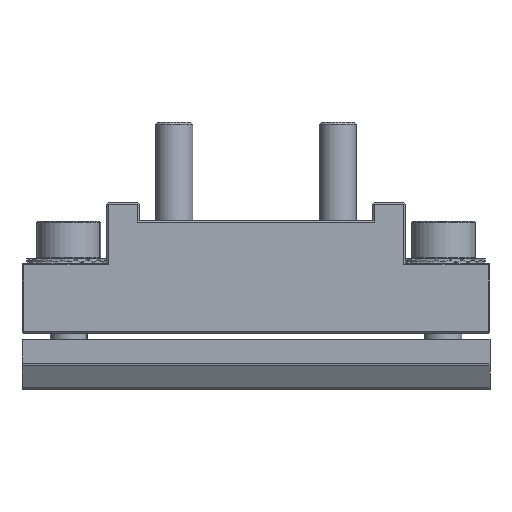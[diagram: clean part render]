
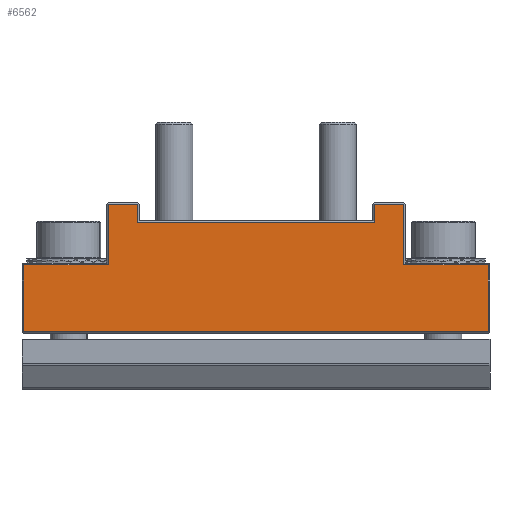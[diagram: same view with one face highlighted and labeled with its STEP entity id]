
A CAD part, front view. The second image highlights one B-rep face of the part: STEP entity #6562.
In plain terms, the highlighted planar face has unit normal (0, -1, 0).
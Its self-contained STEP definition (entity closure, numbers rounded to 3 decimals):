
#11 = DIRECTION ( 'NONE',  ( 0., 0., -1. ) ) ;
#85 = CARTESIAN_POINT ( 'NONE',  ( -15.8, -27.5, 7.3 ) ) ;
#101 = LINE ( 'NONE', #9226, #6243 ) ;
#173 = DIRECTION ( 'NONE',  ( -1., 0., 0. ) ) ;
#300 = CARTESIAN_POINT ( 'NONE',  ( -24.8, -27.5, 0.2 ) ) ;
#338 = EDGE_CURVE ( 'NONE', #9144, #3052, #1144, .T. ) ;
#591 = VERTEX_POINT ( 'NONE', #11457 ) ;
#619 = DIRECTION ( 'NONE',  ( 0., 0., 1. ) ) ;
#810 = CARTESIAN_POINT ( 'NONE',  ( 12.7, -27.5, 13.8 ) ) ;
#893 = EDGE_CURVE ( 'NONE', #3052, #591, #9121, .T. ) ;
#1105 = VERTEX_POINT ( 'NONE', #3630 ) ;
#1144 = LINE ( 'NONE', #5173, #2464 ) ;
#1146 = CARTESIAN_POINT ( 'NONE',  ( 24.8, -27.5, 0.2 ) ) ;
#1263 = EDGE_CURVE ( 'NONE', #10349, #3430, #4144, .T. ) ;
#1548 = CARTESIAN_POINT ( 'NONE',  ( 12.5, -27.5, 13.8 ) ) ;
#1614 = PLANE ( 'NONE',  #4764 ) ;
#1661 = DIRECTION ( 'NONE',  ( -1., 0., 0. ) ) ;
#1707 = CARTESIAN_POINT ( 'NONE',  ( -12.7, -27.5, 7.5 ) ) ;
#1766 = LINE ( 'NONE', #1707, #7526 ) ;
#1800 = VECTOR ( 'NONE', #10225, 1000. ) ;
#1934 = LINE ( 'NONE', #7810, #4538 ) ;
#2464 = VECTOR ( 'NONE', #4257, 1000. ) ;
#2590 = CARTESIAN_POINT ( 'NONE',  ( -25., -27.5, 7.3 ) ) ;
#2632 = EDGE_CURVE ( 'NONE', #7308, #1105, #3662, .T. ) ;
#2723 = DIRECTION ( 'NONE',  ( 0., 0., -1. ) ) ;
#2824 = VERTEX_POINT ( 'NONE', #810 ) ;
#3023 = ORIENTED_EDGE ( 'NONE', *, *, #1263, .T. ) ;
#3052 = VERTEX_POINT ( 'NONE', #1146 ) ;
#3430 = VERTEX_POINT ( 'NONE', #10435 ) ;
#3630 = CARTESIAN_POINT ( 'NONE',  ( -12.7, -27.5, 11.8 ) ) ;
#3638 = VERTEX_POINT ( 'NONE', #7884 ) ;
#3662 = LINE ( 'NONE', #8755, #12959 ) ;
#3872 = EDGE_CURVE ( 'NONE', #9694, #3638, #4212, .T. ) ;
#3996 = CARTESIAN_POINT ( 'NONE',  ( -24.8, -27.5, 7.3 ) ) ;
#4032 = CARTESIAN_POINT ( 'NONE',  ( 24.8, -27.5, 7.5 ) ) ;
#4144 = LINE ( 'NONE', #5197, #1800 ) ;
#4212 = LINE ( 'NONE', #4345, #7137 ) ;
#4257 = DIRECTION ( 'NONE',  ( 1., 0., 0. ) ) ;
#4311 = EDGE_CURVE ( 'NONE', #3430, #12268, #9599, .T. ) ;
#4345 = CARTESIAN_POINT ( 'NONE',  ( 15.8, -27.5, 7.5 ) ) ;
#4369 = EDGE_CURVE ( 'NONE', #6242, #9144, #5343, .T. ) ;
#4412 = ORIENTED_EDGE ( 'NONE', *, *, #4369, .T. ) ;
#4464 = DIRECTION ( 'NONE',  ( -1., 0., 0. ) ) ;
#4538 = VECTOR ( 'NONE', #2723, 1000. ) ;
#4688 = ORIENTED_EDGE ( 'NONE', *, *, #6706, .T. ) ;
#4764 = AXIS2_PLACEMENT_3D ( 'NONE', #11470, #5512, #619 ) ;
#5173 = CARTESIAN_POINT ( 'NONE',  ( -25., -27.5, 0.2 ) ) ;
#5197 = CARTESIAN_POINT ( 'NONE',  ( -16., -27.5, 13.8 ) ) ;
#5343 = LINE ( 'NONE', #11971, #11615 ) ;
#5512 = DIRECTION ( 'NONE',  ( 0., 1., 0. ) ) ;
#5824 = ORIENTED_EDGE ( 'NONE', *, *, #10167, .T. ) ;
#6242 = VERTEX_POINT ( 'NONE', #3996 ) ;
#6243 = VECTOR ( 'NONE', #173, 1000. ) ;
#6321 = VECTOR ( 'NONE', #1661, 1000. ) ;
#6465 = EDGE_CURVE ( 'NONE', #591, #9694, #101, .T. ) ;
#6562 = ADVANCED_FACE ( 'NONE', ( #9421 ), #1614, .F. ) ;
#6626 = DIRECTION ( 'NONE',  ( 0., 0., -1. ) ) ;
#6706 = EDGE_CURVE ( 'NONE', #2824, #7308, #1934, .T. ) ;
#7072 = DIRECTION ( 'NONE',  ( 0., 0., 1. ) ) ;
#7119 = CARTESIAN_POINT ( 'NONE',  ( -12.7, -27.5, 13.8 ) ) ;
#7137 = VECTOR ( 'NONE', #10296, 1000. ) ;
#7308 = VERTEX_POINT ( 'NONE', #11249 ) ;
#7526 = VECTOR ( 'NONE', #12867, 1000. ) ;
#7784 = ORIENTED_EDGE ( 'NONE', *, *, #12446, .T. ) ;
#7810 = CARTESIAN_POINT ( 'NONE',  ( 12.7, -27.5, 7.5 ) ) ;
#7884 = CARTESIAN_POINT ( 'NONE',  ( 15.8, -27.5, 13.8 ) ) ;
#8408 = VECTOR ( 'NONE', #6626, 1000. ) ;
#8746 = DIRECTION ( 'NONE',  ( -1., 0., 0. ) ) ;
#8755 = CARTESIAN_POINT ( 'NONE',  ( -12.5, -27.5, 11.8 ) ) ;
#8867 = CARTESIAN_POINT ( 'NONE',  ( -15.8, -27.5, 7.5 ) ) ;
#8981 = ORIENTED_EDGE ( 'NONE', *, *, #338, .T. ) ;
#9047 = EDGE_LOOP ( 'NONE', ( #12353, #9251, #10542, #4688, #10777, #5824, #3023, #11954, #7784, #4412, #8981, #11042 ) ) ;
#9121 = LINE ( 'NONE', #4032, #11535 ) ;
#9144 = VERTEX_POINT ( 'NONE', #300 ) ;
#9164 = EDGE_CURVE ( 'NONE', #3638, #2824, #12585, .T. ) ;
#9226 = CARTESIAN_POINT ( 'NONE',  ( 16., -27.5, 7.3 ) ) ;
#9251 = ORIENTED_EDGE ( 'NONE', *, *, #3872, .T. ) ;
#9421 = FACE_OUTER_BOUND ( 'NONE', #9047, .T. ) ;
#9599 = LINE ( 'NONE', #8867, #8408 ) ;
#9694 = VERTEX_POINT ( 'NONE', #9910 ) ;
#9910 = CARTESIAN_POINT ( 'NONE',  ( 15.8, -27.5, 7.3 ) ) ;
#10167 = EDGE_CURVE ( 'NONE', #1105, #10349, #1766, .T. ) ;
#10225 = DIRECTION ( 'NONE',  ( -1., 0., 0. ) ) ;
#10296 = DIRECTION ( 'NONE',  ( 0., 0., 1. ) ) ;
#10349 = VERTEX_POINT ( 'NONE', #7119 ) ;
#10435 = CARTESIAN_POINT ( 'NONE',  ( -15.8, -27.5, 13.8 ) ) ;
#10542 = ORIENTED_EDGE ( 'NONE', *, *, #9164, .T. ) ;
#10777 = ORIENTED_EDGE ( 'NONE', *, *, #2632, .T. ) ;
#11000 = VECTOR ( 'NONE', #8746, 1000. ) ;
#11042 = ORIENTED_EDGE ( 'NONE', *, *, #893, .T. ) ;
#11249 = CARTESIAN_POINT ( 'NONE',  ( 12.7, -27.5, 11.8 ) ) ;
#11457 = CARTESIAN_POINT ( 'NONE',  ( 24.8, -27.5, 7.3 ) ) ;
#11470 = CARTESIAN_POINT ( 'NONE',  ( -25., -27.5, 7.5 ) ) ;
#11535 = VECTOR ( 'NONE', #7072, 1000. ) ;
#11615 = VECTOR ( 'NONE', #11, 1000. ) ;
#11777 = LINE ( 'NONE', #2590, #6321 ) ;
#11954 = ORIENTED_EDGE ( 'NONE', *, *, #4311, .T. ) ;
#11971 = CARTESIAN_POINT ( 'NONE',  ( -24.8, -27.5, 7.5 ) ) ;
#12268 = VERTEX_POINT ( 'NONE', #85 ) ;
#12353 = ORIENTED_EDGE ( 'NONE', *, *, #6465, .T. ) ;
#12446 = EDGE_CURVE ( 'NONE', #12268, #6242, #11777, .T. ) ;
#12585 = LINE ( 'NONE', #1548, #11000 ) ;
#12867 = DIRECTION ( 'NONE',  ( 0., 0., 1. ) ) ;
#12959 = VECTOR ( 'NONE', #4464, 1000. ) ;
